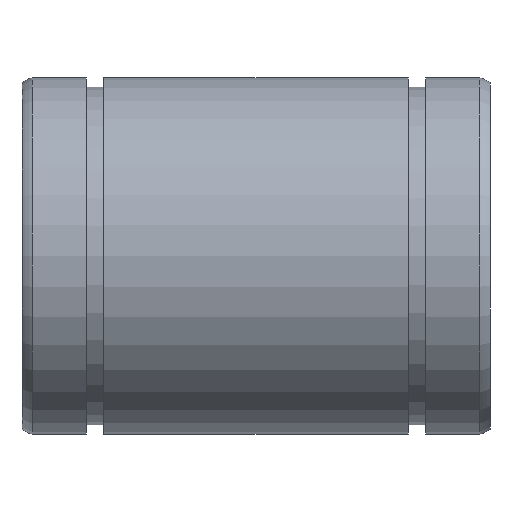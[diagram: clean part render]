
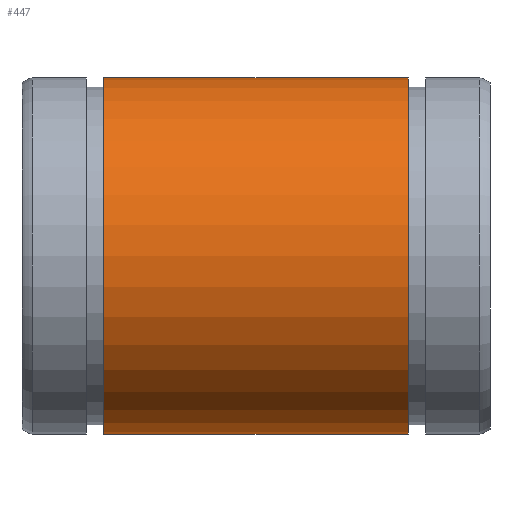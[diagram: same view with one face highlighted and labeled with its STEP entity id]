
A CAD part, top view. The second image highlights one B-rep face of the part: STEP entity #447.
In plain terms, the highlighted cylindrical face has radius 16 mm (diameter 32 mm), a partial arc.
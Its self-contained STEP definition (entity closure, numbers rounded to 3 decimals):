
#84=CARTESIAN_POINT('',(7.35,8.0,-13.856));
#85=VERTEX_POINT('',#84);
#92=CARTESIAN_POINT('',(34.65,8.,-13.856));
#93=VERTEX_POINT('',#92);
#94=CARTESIAN_POINT('',(34.65,8.,-13.856));
#95=DIRECTION('',(-1.0,0.0,0.0));
#96=VECTOR('',#95,27.3);
#97=LINE('',#94,#96);
#98=EDGE_CURVE('',#93,#85,#97,.T.);
#303=CARTESIAN_POINT('',(34.65,-8.,-13.856));
#304=VERTEX_POINT('',#303);
#311=CARTESIAN_POINT('',(7.35,-8.,-13.856));
#312=VERTEX_POINT('',#311);
#313=CARTESIAN_POINT('',(7.35,-8.,-13.856));
#314=DIRECTION('',(1.0,0.0,0.0));
#315=VECTOR('',#314,27.3);
#316=LINE('',#313,#315);
#317=EDGE_CURVE('',#312,#304,#316,.T.);
#418=CARTESIAN_POINT('',(7.35,0.0,0.));
#419=DIRECTION('',(-1.0,0.0,0.0));
#420=DIRECTION('',(0.0,0.0,1.0));
#421=AXIS2_PLACEMENT_3D('',#418,#419,#420);
#422=CIRCLE('',#421,16.0);
#423=EDGE_CURVE('',#312,#85,#422,.T.);
#430=CARTESIAN_POINT('',(21.,0.0,0.));
#431=DIRECTION('',(-1.0,0.0,0.0));
#432=DIRECTION('',(0.0,0.0,1.0));
#433=AXIS2_PLACEMENT_3D('',#430,#431,#432);
#434=CYLINDRICAL_SURFACE('',#433,16.);
#435=ORIENTED_EDGE('',*,*,#317,.T.);
#436=CARTESIAN_POINT('',(34.65,0.0,0.));
#437=DIRECTION('',(-1.0,0.0,0.0));
#438=DIRECTION('',(0.0,0.0,1.0));
#439=AXIS2_PLACEMENT_3D('',#436,#437,#438);
#440=CIRCLE('',#439,16.);
#441=EDGE_CURVE('',#304,#93,#440,.T.);
#442=ORIENTED_EDGE('',*,*,#441,.T.);
#443=ORIENTED_EDGE('',*,*,#98,.T.);
#444=ORIENTED_EDGE('',*,*,#423,.F.);
#445=EDGE_LOOP('',(#435,#442,#443,#444));
#446=FACE_OUTER_BOUND('',#445,.T.);
#447=ADVANCED_FACE('',(#446),#434,.T.);
